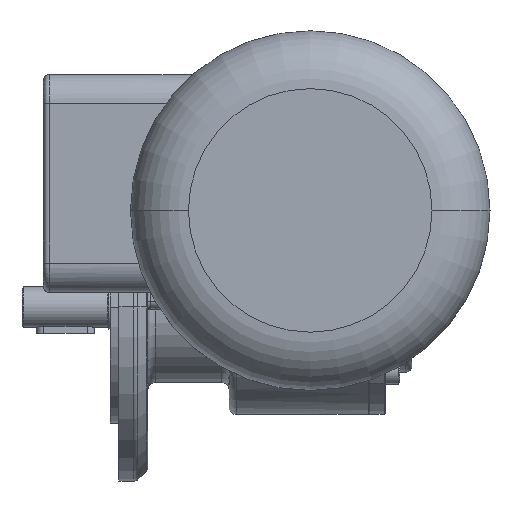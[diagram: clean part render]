
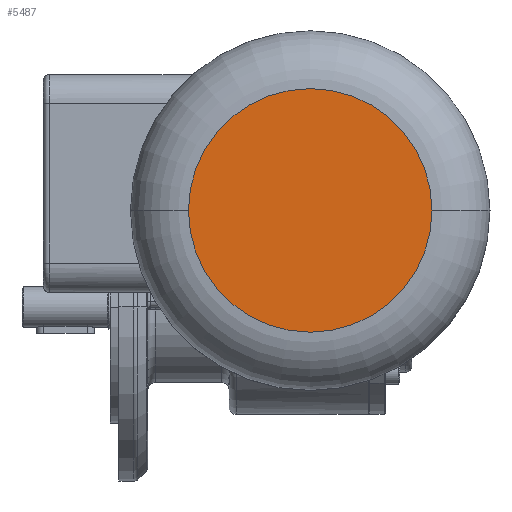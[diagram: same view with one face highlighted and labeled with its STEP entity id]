
A CAD part, top view. The second image highlights one B-rep face of the part: STEP entity #5487.
In plain terms, the highlighted planar face has unit normal (0, 0, 1).
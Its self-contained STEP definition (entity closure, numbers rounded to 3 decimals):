
#723 = ORIENTED_EDGE ( 'NONE', *, *, #10941, .T. ) ;
#907 = CARTESIAN_POINT ( 'NONE',  ( -82.08, 42.407, 233.5 ) ) ;
#1788 = DIRECTION ( 'NONE',  ( 0., 0., -1. ) ) ;
#2287 = DIRECTION ( 'NONE',  ( 0., 0., 1. ) ) ;
#2722 = CARTESIAN_POINT ( 'NONE',  ( -40.08, 42.407, 233.5 ) ) ;
#2783 = FACE_OUTER_BOUND ( 'NONE', #8950, .T. ) ;
#3613 = AXIS2_PLACEMENT_3D ( 'NONE', #8118, #2287, #4014 ) ;
#3772 = CARTESIAN_POINT ( 'NONE',  ( -82.08, 42.407, 233.5 ) ) ;
#4014 = DIRECTION ( 'NONE',  ( -1., 0., 0. ) ) ;
#4484 = AXIS2_PLACEMENT_3D ( 'NONE', #907, #6083, #13056 ) ;
#5099 = CIRCLE ( 'NONE', #3613, 42. ) ;
#5487 = ADVANCED_FACE ( 'NONE', ( #2783 ), #6084, .F. ) ;
#5699 = VERTEX_POINT ( 'NONE', #12700 ) ;
#6083 = DIRECTION ( 'NONE',  ( 0., 0., 1. ) ) ;
#6084 = PLANE ( 'NONE',  #7136 ) ;
#6316 = VERTEX_POINT ( 'NONE', #2722 ) ;
#7136 = AXIS2_PLACEMENT_3D ( 'NONE', #3772, #1788, #12248 ) ;
#7312 = EDGE_CURVE ( 'NONE', #6316, #5699, #8130, .T. ) ;
#8118 = CARTESIAN_POINT ( 'NONE',  ( -82.08, 42.407, 233.5 ) ) ;
#8130 = CIRCLE ( 'NONE', #4484, 42. ) ;
#8950 = EDGE_LOOP ( 'NONE', ( #723, #11797 ) ) ;
#10941 = EDGE_CURVE ( 'NONE', #5699, #6316, #5099, .T. ) ;
#11797 = ORIENTED_EDGE ( 'NONE', *, *, #7312, .T. ) ;
#12248 = DIRECTION ( 'NONE',  ( -1., 0., 0. ) ) ;
#12700 = CARTESIAN_POINT ( 'NONE',  ( -124.08, 42.407, 233.5 ) ) ;
#13056 = DIRECTION ( 'NONE',  ( -1., 0., 0. ) ) ;
